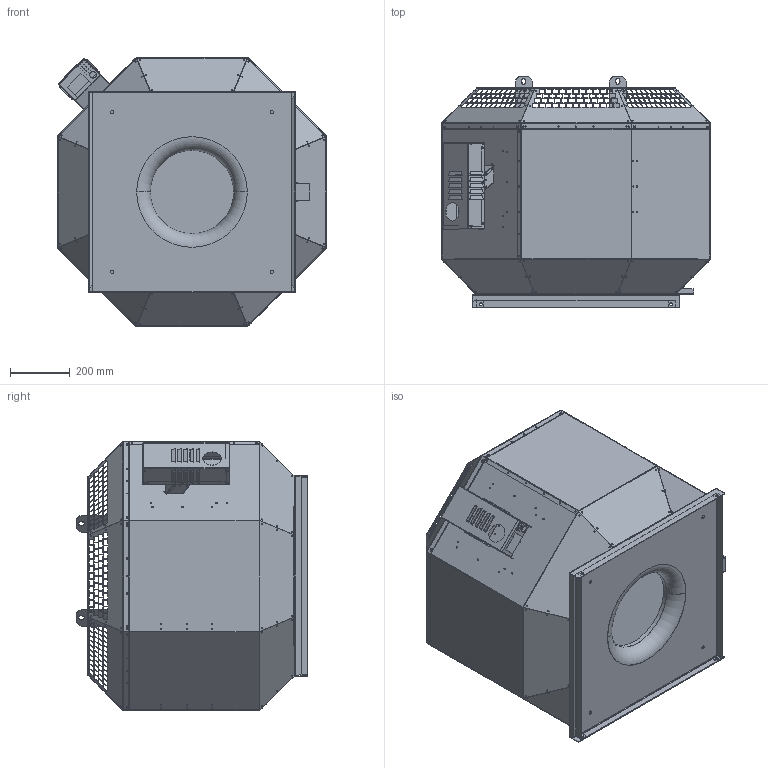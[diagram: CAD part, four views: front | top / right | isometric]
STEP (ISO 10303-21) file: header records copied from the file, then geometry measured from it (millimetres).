
FILE_DESCRIPTION (( 'STEP AP203' ), '1' );
FILE_NAME ('144001-00_DVN450EC30_step.step', '2018-07-27T08:21:02', ( '' ), ( '' ), 'SwSTEP 2.0', 'SolidWorks 2017', '' );
FILE_SCHEMA (( 'CONFIG_CONTROL_DESIGN' ));
Products named in the file (1): 144001-00_DVN450EC30_step
Bounding box: 902 x 776.12 x 902 mm (x, y, z)
Surface area: 6551426.4 mm2 (no closed solid volume)
Topology: 0 solids, 38 shells, 1796 faces, 10711 edges, 8295 vertices
Faces by surface type: plane 1319, cylinder 404, bspline 69, torus 4
Entity records: 121132 total; most frequent: CARTESIAN_POINT 38007, DIRECTION 15441, ORIENTED_EDGE 14497, EDGE_CURVE 10711, LINE 8587, VECTOR 8587, VERTEX_POINT 8295, EDGE_LOOP 3879
